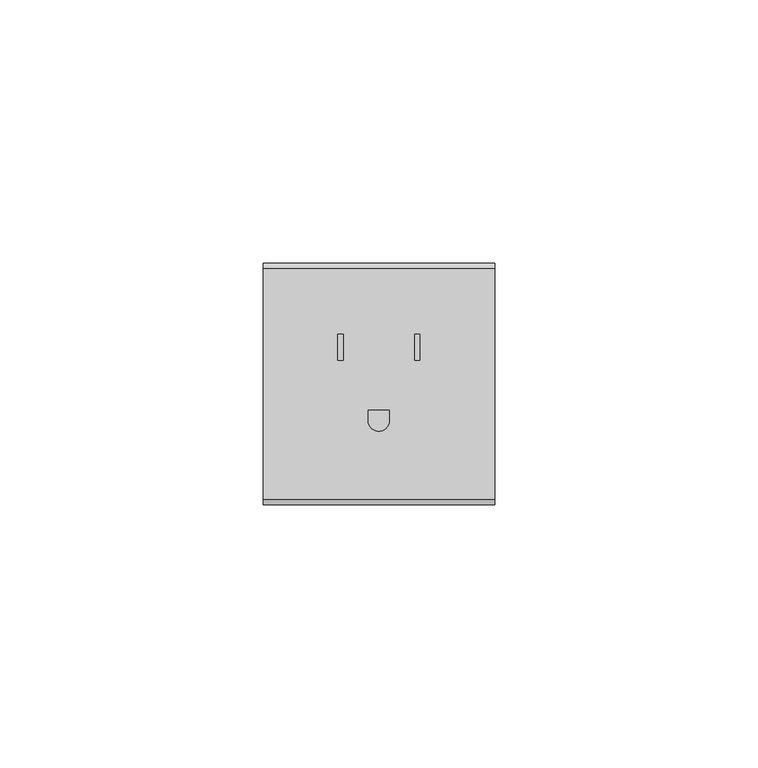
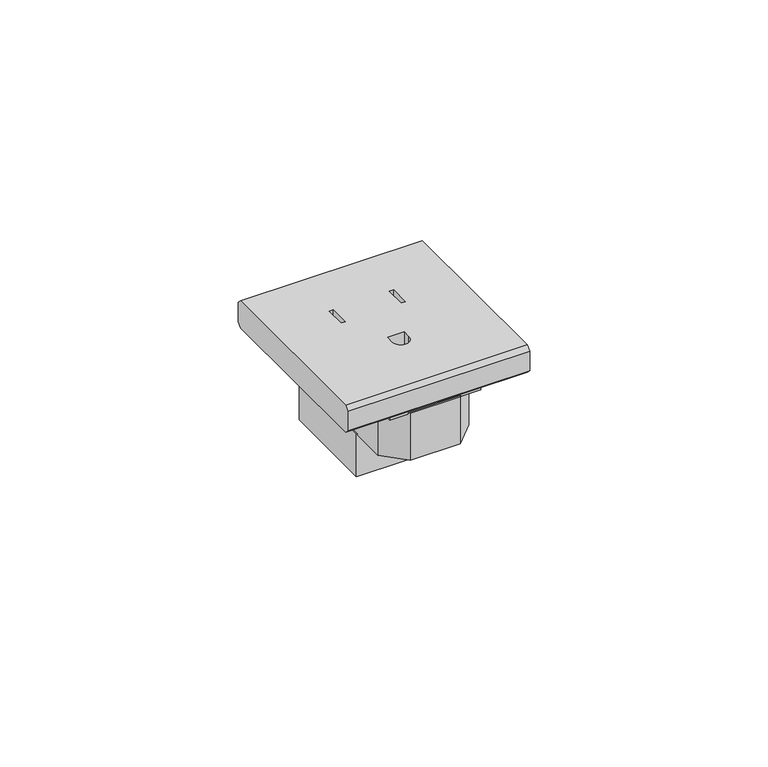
"""IFC4 building model written with IfcOpenShell, lengths in millimetres: proxy geometry, L4128 LI Presa FM 2P+T USA : L4128 LI Presa FM 2P+T USA."""

from ifc_helpers import new_model, si_unit, point, frame, origin, origin_with_axes, place, context, project, spatial, polyline, circle_curve, ellipse_curve, trimmed, outline, extrude, source, transform, mapped, element, save
from ifc_brep_helpers import plane_surface, extruded_surface, advanced_brep


def electrical_fixtures_5129823d(model_context):
    return source(origin(), model_context, "Body", "SolidModel", [
        advanced_brep(
        [(22.0, -22.0, 1.0), (22.0, 22.0, 1.0), (22.0, 22.9899495, 1.9899495), (22.0, 22.9899495, 6.9899495), (22.0, 22.0, 7.979899), (22.0, -22.0, 7.979899), (22.0, -22.9899495, 6.9899495), (22.0, -22.9899495, 1.9899495), (-22.0, -22.0, 1.0), (-22.0, -22.9899495, 1.9899495), (-22.0, -22.9899495, 6.9899495), (-22.0, -22.0, 7.979899), (-22.0, 22.0, 7.979899), (-22.0, 22.9899495, 6.9899495), (-22.0, 22.9899495, 1.9899495), (-22.0, 22.0, 1.0), (6.8, 4.5, 1.0), (7.8, 4.5, 1.0), (7.8, 9.5, 1.0), (6.8, 9.5, 1.0), (-6.8, 4.5, 1.0), (-6.8, 9.5, 1.0), (-7.8, 9.5, 1.0), (-7.8, 4.5, 1.0), (2.0, -5.0, 1.0), (-2.0, -5.0, 1.0), (-2.0, -7.0, 1.0), (2.0, -7.0, 1.0), (7.8, 4.5, 7.979899), (6.8, 4.5, 7.979899), (6.8, 9.5, 7.979899), (7.8, 9.5, 7.979899), (-6.8, 9.5, 7.979899), (-6.8, 4.5, 7.979899), (-7.8, 4.5, 7.979899), (-7.8, 9.5, 7.979899), (-2.0, -5.0, 7.979899), (2.0, -5.0, 7.979899), (2.0, -7.0, 7.979899), (-2.0, -7.0, 7.979899)],
        [
            (0, 1),
            (1, 2),
            (2, 3),
            (3, 4),
            (4, 5),
            (5, 6),
            (6, 7),
            (7, 0),
            (8, 9),
            (9, 10),
            (10, 11),
            (11, 12),
            (12, 13),
            (13, 14),
            (14, 15),
            (15, 8),
            (0, 8),
            (15, 1),
            (16, 17),
            (17, 18),
            (18, 19),
            (19, 16),
            (20, 21),
            (21, 22),
            (22, 23),
            (23, 20),
            (24, 25),
            (25, 26),
            (26, 27, ellipse_curve(frame((0.0, -7.0, 1.0), z_axis=(0.0, 0.0, 1.0), x_axis=(-1.0, 0.0, 0.0)), 2.0, 2.0)),
            (27, 24),
            (5, 11),
            (10, 6),
            (9, 7),
            (14, 2),
            (13, 3),
            (12, 4),
            (28, 29),
            (29, 30),
            (30, 31),
            (31, 28),
            (32, 33),
            (33, 34),
            (34, 35),
            (35, 32),
            (36, 37),
            (37, 38),
            (38, 39, circle_curve(frame((0.0, -7.0, 7.979899), z_axis=(0.0, 0.0, -1.0), x_axis=(-1.0, 0.0, 0.0)), 2.0)),
            (39, 36),
            (28, 17),
            (16, 29),
            (31, 18),
            (30, 19),
            (32, 21),
            (20, 33),
            (35, 22),
            (34, 23),
            (36, 25),
            (24, 37),
            (39, 26),
            (38, 27),
        ],
        [
            plane_surface(frame((22.0, 0.0, 1.0), z_axis=(1.0, 0.0, 0.0), x_axis=(0.0, 1.0, 0.0))),
            plane_surface(frame((-22.0, 0.0, 1.0), z_axis=(-1.0, 0.0, 0.0), x_axis=(0.0, -1.0, 0.0))),
            plane_surface(frame((22.0, -22.0, 1.0), z_axis=(0.0, 0.0, -1.0), x_axis=(-1.0, 0.0, 0.0))),
            plane_surface(frame((22.0, -22.0, 7.979899), z_axis=(0.0, -0.7071067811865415, 0.7071067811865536), x_axis=(-1.0, 0.0, 0.0))),
            plane_surface(frame((22.0, -22.9899495, 6.9899495), z_axis=(0.0, -1.0, 0.0), x_axis=(-1.0, 0.0, 0.0))),
            plane_surface(frame((22.0, -22.9899495, 1.9899495), z_axis=(0.0, -0.707106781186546, -0.707106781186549), x_axis=(-1.0, 0.0, 0.0))),
            plane_surface(frame((22.0, 22.0, 1.0), z_axis=(0.0, 0.7071067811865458, -0.7071067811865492), x_axis=(-1.0, 0.0, 0.0))),
            plane_surface(frame((22.0, 22.9899495, 1.9899495), z_axis=(0.0, 1.0, 0.0), x_axis=(-1.0, 0.0, 0.0))),
            plane_surface(frame((22.0, 22.9899495, 6.9899495), z_axis=(0.0, 0.7071067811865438, 0.7071067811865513), x_axis=(-1.0, 0.0, 0.0))),
            plane_surface(frame((22.0, 22.0, 7.979899), z_axis=(0.0, 0.0, 1.0), x_axis=(-1.0, 0.0, 0.0))),
            plane_surface(frame((6.8, 4.5, 7.979899), z_axis=(0.0, 1.0, 0.0), x_axis=(0.0, 0.0, -1.0))),
            plane_surface(frame((7.8, 4.5, 7.979899), z_axis=(-1.0, 0.0, 0.0), x_axis=(0.0, 0.0, -1.0))),
            plane_surface(frame((7.8, 9.5, 7.979899), z_axis=(0.0, -1.0, 0.0), x_axis=(0.0, 0.0, -1.0))),
            plane_surface(frame((6.8, 9.5, 7.979899), z_axis=(1.0, 0.0, 0.0), x_axis=(0.0, 0.0, -1.0))),
            plane_surface(frame((-6.8, 4.5, 7.979899), z_axis=(-1.0, 0.0, 0.0), x_axis=(0.0, 0.0, -1.0))),
            plane_surface(frame((-6.8, 9.5, 7.979899), z_axis=(0.0, -1.0, 0.0), x_axis=(0.0, 0.0, -1.0))),
            plane_surface(frame((-7.8, 9.5, 7.979899), z_axis=(1.0, 0.0, 0.0), x_axis=(0.0, 0.0, -1.0))),
            plane_surface(frame((-7.8, 4.5, 7.979899), z_axis=(0.0, 1.0, 0.0), x_axis=(0.0, 0.0, -1.0))),
            plane_surface(frame((2.0, -5.0, 7.979899), z_axis=(0.0, -1.0, 0.0), x_axis=(0.0, 0.0, -1.0))),
            plane_surface(frame((-2.0, -5.0, 7.979899), z_axis=(1.0, 0.0, 0.0), x_axis=(0.0, 0.0, -1.0))),
            extruded_surface(trimmed(ellipse_curve(frame((0.0, -7.0, 1.0), z_axis=(0.0, 0.0, 1.0), x_axis=(-1.0, 0.0, 0.0)), 2.0, 2.0), [point((-2.0, -7.0, 1.0))], [point((2.0, -7.0, 1.0))], True, "CARTESIAN"), (0.0, 0.0, -6.979899), 6.979899),
            plane_surface(frame((2.0, -7.0, 7.979899), z_axis=(-1.0, 0.0, 0.0), x_axis=(0.0, 0.0, -1.0))),
        ],
        [
            (0, [[1, 2, 3, 4, 5, 6, 7, 8]]),
            (1, [[9, 10, 11, 12, 13, 14, 15, 16]]),
            (2, [[-1, 17, -16, 18], [19, 20, 21, 22], [23, 24, 25, 26], [27, 28, 29, 30]]),
            (3, [[-6, 31, -11, 32]]),
            (4, [[-7, -32, -10, 33]]),
            (5, [[-8, -33, -9, -17]]),
            (6, [[-2, -18, -15, 34]]),
            (7, [[-3, -34, -14, 35]]),
            (8, [[-4, -35, -13, 36]]),
            (9, [[-5, -36, -12, -31], [37, 38, 39, 40], [41, 42, 43, 44], [45, 46, 47, 48]]),
            (10, [[49, -19, 50, -37]]),
            (11, [[-49, -40, 51, -20]]),
            (12, [[-51, -39, 52, -21]]),
            (13, [[-50, -22, -52, -38]]),
            (14, [[53, -23, 54, -41]]),
            (15, [[-53, -44, 55, -24]]),
            (16, [[-55, -43, 56, -25]]),
            (17, [[-54, -26, -56, -42]]),
            (18, [[57, -27, 58, -45]]),
            (19, [[-57, -48, 59, -28]]),
            (20, [[-59, -47, 60, -29]]),
            (21, [[-58, -30, -60, -46]]),
        ],
    ),
        extrude(outline(polyline([(-11.0, -7.5), (-11.0, 16.5), (-9.0, 18.5), (9.0, 18.5), (11.0, 16.5), (11.0, -7.5), (-11.0, -7.5)])), frame((0.0, 0.0, -23.0), z_axis=(0.0, 0.0, 1.0), x_axis=(1.0, 0.0, 0.0)), (0.0, 0.0, 1.0), 11.0),
        extrude(outline(polyline([(11.0, -16.5), (6.0, -21.5), (-6.0, -21.5), (-11.0, -16.5), (-11.0, 16.5), (-6.0, 21.5), (6.0, 21.5), (11.0, 16.5), (11.0, -16.5)])), frame((0.0, 0.0, -12.0), z_axis=(0.0, 0.0, 1.0), x_axis=(1.0, 0.0, 0.0)), (0.0, 0.0, 1.0), 12.0),
        extrude(outline(polyline([(11.0, -21.5), (-11.0, -21.5), (-11.0, 21.5), (11.0, 21.5), (11.0, -21.5)])), origin_with_axes(), (0.0, 0.0, 1.0), 1.0),
    ])


if __name__ == "__main__":
    model = new_model("IFC4")
    model_context = context("Model", 3, world=origin())
    ifc_project = project(units=[si_unit("LENGTHUNIT", "METRE", prefix="MILLI")], contexts=[model_context])
    site = spatial("IfcSite", under=ifc_project)
    building = spatial("IfcBuilding", under=site)
    placement = place(None, origin())
    electrical_fixtures_shape = electrical_fixtures_5129823d(model_context)
    element("IfcBuildingElementProxy", 1, Name="L4128 LI Presa FM 2P+T USA : L4128 LI Presa FM 2P+T USA", ObjectType="L4128 LI Presa FM 2P+T USA : L4128 LI Presa FM 2P+T USA", at=placement, inside=building, context=model_context, shape_type="MappedRepresentation", body=[
        mapped(electrical_fixtures_shape, transform((0.0, 0.0, 0.0), x_axis=(1.0, 0.0, 0.0), y_axis=(0.0, 1.0, 0.0), z_axis=(0.0, 0.0, 1.0))),
    ])
    save(model, "model.ifc")
